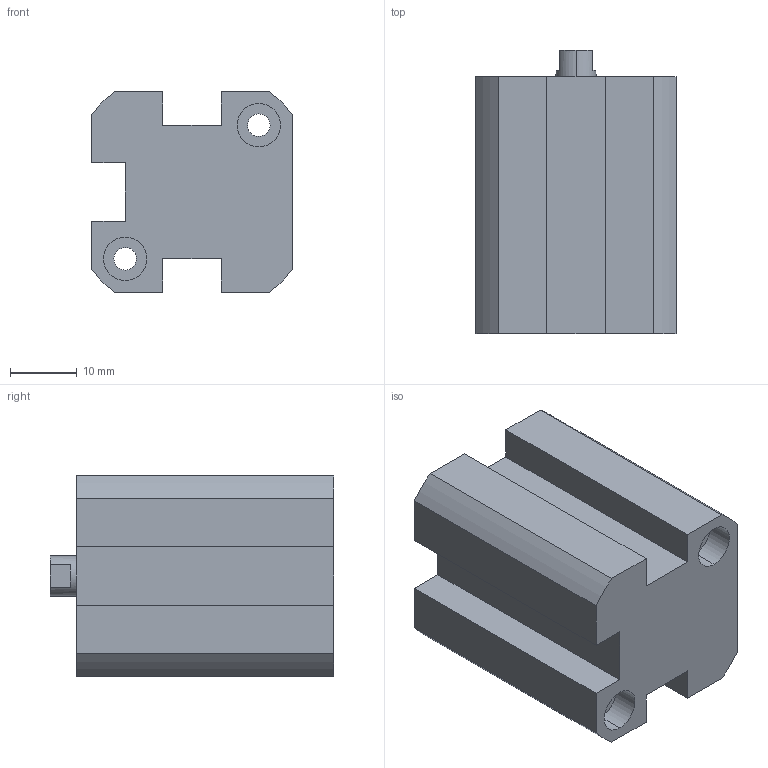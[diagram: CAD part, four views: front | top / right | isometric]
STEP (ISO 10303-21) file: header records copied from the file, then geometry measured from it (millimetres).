
FILE_DESCRIPTION (( 'STEP AP203' ), '1' );
FILE_NAME ('XG#1-16-10.STEP', '2016-05-24T01:39:28', ( '' ), ( '' ), 'SwSTEP 2.0', 'SolidWorks 2014', '' );
FILE_SCHEMA (( 'CONFIG_CONTROL_DESIGN' ));
Length unit declared in the file: millimetre
Products named in the file (1): XG#1-16-10
Bounding box: 30 x 42.5 x 30 mm (x, y, z)
Volume: 27285.1 mm3; surface area: 8390.6 mm2
Topology: 1 solids, 1 shells, 73 faces, 181 edges, 117 vertices
Faces by surface type: cylinder 37, plane 32, cone 4
Entity records: 2251 total; most frequent: DIRECTION 404, CARTESIAN_POINT 368, ORIENTED_EDGE 354, EDGE_CURVE 177, AXIS2_PLACEMENT_3D 153, VERTEX_POINT 117, VECTOR 98, LINE 98
